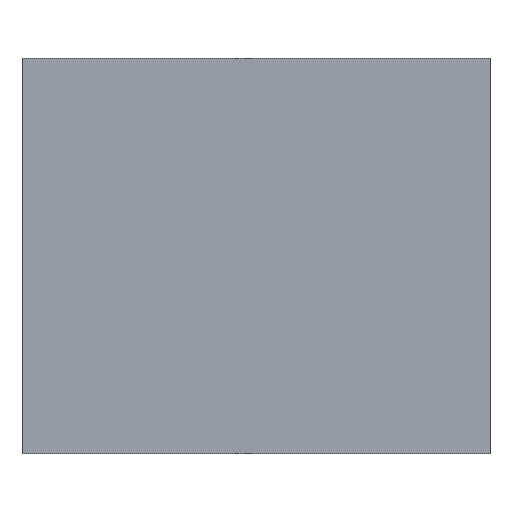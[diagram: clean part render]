
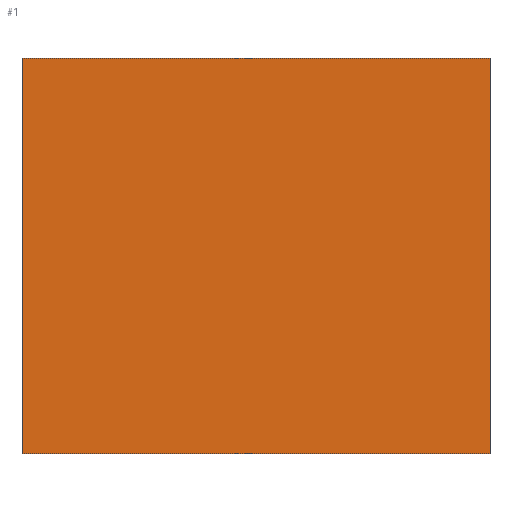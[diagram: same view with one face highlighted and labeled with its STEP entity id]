
A CAD part, top view. The second image highlights one B-rep face of the part: STEP entity #1.
In plain terms, the highlighted planar face has unit normal (0, 0, 1).
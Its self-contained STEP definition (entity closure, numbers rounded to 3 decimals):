
#1 = ADVANCED_FACE ( 'NONE', ( #189 ), #44, .F. ) ;
#13 = EDGE_CURVE ( 'NONE', #137, #47, #167, .T. ) ;
#17 = EDGE_CURVE ( 'NONE', #36, #137, #190, .T. ) ;
#19 = EDGE_CURVE ( 'NONE', #47, #51, #138, .T. ) ;
#21 = EDGE_CURVE ( 'NONE', #51, #36, #170, .T. ) ;
#26 = AXIS2_PLACEMENT_3D ( 'NONE', #106, #33, #31 ) ;
#31 = DIRECTION ( 'NONE',  ( 0., 1., 0. ) ) ;
#33 = DIRECTION ( 'NONE',  ( 0., 0., -1. ) ) ;
#36 = VERTEX_POINT ( 'NONE', #86 ) ;
#40 = CARTESIAN_POINT ( 'NONE',  ( -254., 0., 6. ) ) ;
#41 = CARTESIAN_POINT ( 'NONE',  ( -254., 429., 6. ) ) ;
#44 = PLANE ( 'NONE',  #26 ) ;
#47 = VERTEX_POINT ( 'NONE', #84 ) ;
#49 = DIRECTION ( 'NONE',  ( 1., 0., 0. ) ) ;
#51 = VERTEX_POINT ( 'NONE', #65 ) ;
#65 = CARTESIAN_POINT ( 'NONE',  ( 254., 429., 6. ) ) ;
#73 = CARTESIAN_POINT ( 'NONE',  ( -254., 0., 6. ) ) ;
#80 = DIRECTION ( 'NONE',  ( 0., 1., 0. ) ) ;
#84 = CARTESIAN_POINT ( 'NONE',  ( 254., 0., 6. ) ) ;
#86 = CARTESIAN_POINT ( 'NONE',  ( -254., 429., 6. ) ) ;
#91 = DIRECTION ( 'NONE',  ( -1., 0., 0. ) ) ;
#104 = DIRECTION ( 'NONE',  ( 0., -1., 0. ) ) ;
#106 = CARTESIAN_POINT ( 'NONE',  ( -254., 429., 6. ) ) ;
#108 = CARTESIAN_POINT ( 'NONE',  ( -254., 0., 6. ) ) ;
#115 = CARTESIAN_POINT ( 'NONE',  ( 254., 0., 6. ) ) ;
#121 = ORIENTED_EDGE ( 'NONE', *, *, #21, .T. ) ;
#124 = ORIENTED_EDGE ( 'NONE', *, *, #19, .T. ) ;
#137 = VERTEX_POINT ( 'NONE', #40 ) ;
#138 = LINE ( 'NONE', #115, #183 ) ;
#141 = VECTOR ( 'NONE', #91, 1000. ) ;
#148 = VECTOR ( 'NONE', #49, 1000. ) ;
#157 = ORIENTED_EDGE ( 'NONE', *, *, #17, .T. ) ;
#160 = ORIENTED_EDGE ( 'NONE', *, *, #13, .T. ) ;
#162 = EDGE_LOOP ( 'NONE', ( #157, #160, #124, #121 ) ) ;
#167 = LINE ( 'NONE', #73, #148 ) ;
#170 = LINE ( 'NONE', #41, #141 ) ;
#180 = VECTOR ( 'NONE', #104, 1000. ) ;
#183 = VECTOR ( 'NONE', #80, 1000. ) ;
#189 = FACE_OUTER_BOUND ( 'NONE', #162, .T. ) ;
#190 = LINE ( 'NONE', #108, #180 ) ;
